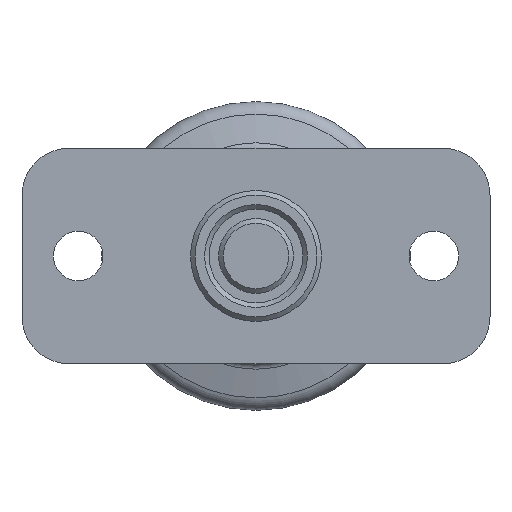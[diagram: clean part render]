
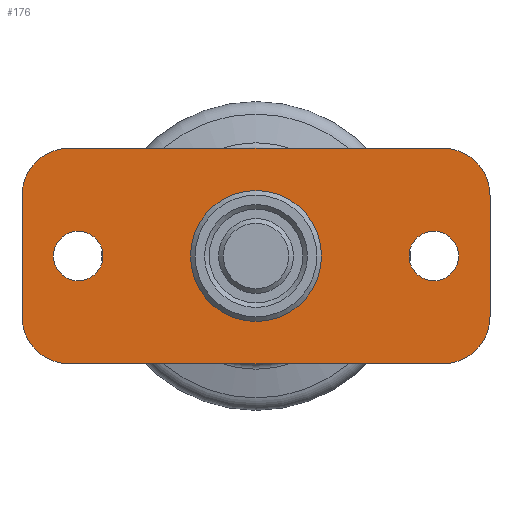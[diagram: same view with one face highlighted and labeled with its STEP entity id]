
A CAD part, front view. The second image highlights one B-rep face of the part: STEP entity #176.
In plain terms, the highlighted planar face has unit normal (0, -1, 0).
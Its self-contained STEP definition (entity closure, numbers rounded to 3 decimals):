
#176 = ADVANCED_FACE( '', ( #257, #258, #259, #260 ), #261, .F. );
#257 = FACE_BOUND( '', #430, .T. );
#258 = FACE_BOUND( '', #431, .T. );
#259 = FACE_BOUND( '', #432, .T. );
#260 = FACE_OUTER_BOUND( '', #433, .T. );
#261 = PLANE( '', #434 );
#430 = EDGE_LOOP( '', ( #640 ) );
#431 = EDGE_LOOP( '', ( #641 ) );
#432 = EDGE_LOOP( '', ( #642 ) );
#433 = EDGE_LOOP( '', ( #643, #644, #645, #646, #647, #648, #649, #650 ) );
#434 = AXIS2_PLACEMENT_3D( '', #651, #652, #653 );
#640 = ORIENTED_EDGE( '', *, *, #1082, .F. );
#641 = ORIENTED_EDGE( '', *, *, #1083, .F. );
#642 = ORIENTED_EDGE( '', *, *, #1084, .F. );
#643 = ORIENTED_EDGE( '', *, *, #1072, .F. );
#644 = ORIENTED_EDGE( '', *, *, #1085, .F. );
#645 = ORIENTED_EDGE( '', *, *, #1086, .F. );
#646 = ORIENTED_EDGE( '', *, *, #1087, .F. );
#647 = ORIENTED_EDGE( '', *, *, #1088, .F. );
#648 = ORIENTED_EDGE( '', *, *, #1089, .F. );
#649 = ORIENTED_EDGE( '', *, *, #1090, .F. );
#650 = ORIENTED_EDGE( '', *, *, #1091, .F. );
#651 = CARTESIAN_POINT( '', ( -20., 0., 6.5 ) );
#652 = DIRECTION( '', ( 0., 1., 0. ) );
#653 = DIRECTION( '', ( 0., 0., 1. ) );
#1072 = EDGE_CURVE( '', #1222, #1223, #1224, .T. );
#1082 = EDGE_CURVE( '', #1239, #1239, #1240, .T. );
#1083 = EDGE_CURVE( '', #1241, #1241, #1242, .T. );
#1084 = EDGE_CURVE( '', #1243, #1243, #1244, .T. );
#1085 = EDGE_CURVE( '', #1245, #1222, #1246, .T. );
#1086 = EDGE_CURVE( '', #1247, #1245, #1248, .T. );
#1087 = EDGE_CURVE( '', #1249, #1247, #1250, .T. );
#1088 = EDGE_CURVE( '', #1251, #1249, #1252, .T. );
#1089 = EDGE_CURVE( '', #1253, #1251, #1254, .T. );
#1090 = EDGE_CURVE( '', #1255, #1253, #1256, .T. );
#1091 = EDGE_CURVE( '', #1223, #1255, #1257, .T. );
#1222 = VERTEX_POINT( '', #1534 );
#1223 = VERTEX_POINT( '', #1535 );
#1224 = LINE( '', #1536, #1537 );
#1239 = VERTEX_POINT( '', #1557 );
#1240 = CIRCLE( '', #1558, 2.65 );
#1241 = VERTEX_POINT( '', #1559 );
#1242 = CIRCLE( '', #1560, 2.65 );
#1243 = VERTEX_POINT( '', #1561 );
#1244 = CIRCLE( '', #1562, 7. );
#1245 = VERTEX_POINT( '', #1563 );
#1246 = CIRCLE( '', #1564, 5. );
#1247 = VERTEX_POINT( '', #1565 );
#1248 = LINE( '', #1566, #1567 );
#1249 = VERTEX_POINT( '', #1568 );
#1250 = CIRCLE( '', #1569, 5. );
#1251 = VERTEX_POINT( '', #1570 );
#1252 = LINE( '', #1571, #1572 );
#1253 = VERTEX_POINT( '', #1573 );
#1254 = CIRCLE( '', #1574, 5. );
#1255 = VERTEX_POINT( '', #1575 );
#1256 = LINE( '', #1576, #1577 );
#1257 = CIRCLE( '', #1578, 5. );
#1534 = CARTESIAN_POINT( '', ( -25., 0., -6.5 ) );
#1535 = CARTESIAN_POINT( '', ( -25., 0., 6.5 ) );
#1536 = CARTESIAN_POINT( '', ( -25., 0., -6.5 ) );
#1537 = VECTOR( '', #1888, 1000. );
#1557 = CARTESIAN_POINT( '', ( -19., 0., -2.65 ) );
#1558 = AXIS2_PLACEMENT_3D( '', #1906, #1907, #1908 );
#1559 = CARTESIAN_POINT( '', ( 19., 0., -2.65 ) );
#1560 = AXIS2_PLACEMENT_3D( '', #1909, #1910, #1911 );
#1561 = CARTESIAN_POINT( '', ( 0., 0., -7. ) );
#1562 = AXIS2_PLACEMENT_3D( '', #1912, #1913, #1914 );
#1563 = CARTESIAN_POINT( '', ( -20., 0., -11.5 ) );
#1564 = AXIS2_PLACEMENT_3D( '', #1915, #1916, #1917 );
#1565 = CARTESIAN_POINT( '', ( 20., 0., -11.5 ) );
#1566 = CARTESIAN_POINT( '', ( 20., 0., -11.5 ) );
#1567 = VECTOR( '', #1918, 1000. );
#1568 = CARTESIAN_POINT( '', ( 25., 0., -6.5 ) );
#1569 = AXIS2_PLACEMENT_3D( '', #1919, #1920, #1921 );
#1570 = CARTESIAN_POINT( '', ( 25., 0., 6.5 ) );
#1571 = CARTESIAN_POINT( '', ( 25., 0., 6.5 ) );
#1572 = VECTOR( '', #1922, 1000. );
#1573 = CARTESIAN_POINT( '', ( 20., 0., 11.5 ) );
#1574 = AXIS2_PLACEMENT_3D( '', #1923, #1924, #1925 );
#1575 = CARTESIAN_POINT( '', ( -20., 0., 11.5 ) );
#1576 = CARTESIAN_POINT( '', ( -20., 0., 11.5 ) );
#1577 = VECTOR( '', #1926, 1000. );
#1578 = AXIS2_PLACEMENT_3D( '', #1927, #1928, #1929 );
#1888 = DIRECTION( '', ( 0., 0., 1. ) );
#1906 = CARTESIAN_POINT( '', ( -19., 0., 0. ) );
#1907 = DIRECTION( '', ( 0., -1., 0. ) );
#1908 = DIRECTION( '', ( 0., 0., -1. ) );
#1909 = CARTESIAN_POINT( '', ( 19., 0., 0. ) );
#1910 = DIRECTION( '', ( 0., -1., 0. ) );
#1911 = DIRECTION( '', ( 0., 0., -1. ) );
#1912 = CARTESIAN_POINT( '', ( 0., 0., 0. ) );
#1913 = DIRECTION( '', ( 0., -1., 0. ) );
#1914 = DIRECTION( '', ( 0., 0., -1. ) );
#1915 = CARTESIAN_POINT( '', ( -20., 0., -6.5 ) );
#1916 = DIRECTION( '', ( 0., 1., 0. ) );
#1917 = DIRECTION( '', ( 1., 0., 0. ) );
#1918 = DIRECTION( '', ( -1., 0., 0. ) );
#1919 = CARTESIAN_POINT( '', ( 20., 0., -6.5 ) );
#1920 = DIRECTION( '', ( 0., 1., 0. ) );
#1921 = DIRECTION( '', ( 1., 0., 0. ) );
#1922 = DIRECTION( '', ( 0., 0., -1. ) );
#1923 = CARTESIAN_POINT( '', ( 20., 0., 6.5 ) );
#1924 = DIRECTION( '', ( 0., 1., 0. ) );
#1925 = DIRECTION( '', ( 1., 0., 0. ) );
#1926 = DIRECTION( '', ( 1., 0., 0. ) );
#1927 = CARTESIAN_POINT( '', ( -20., 0., 6.5 ) );
#1928 = DIRECTION( '', ( 0., 1., 0. ) );
#1929 = DIRECTION( '', ( 1., 0., 0. ) );
